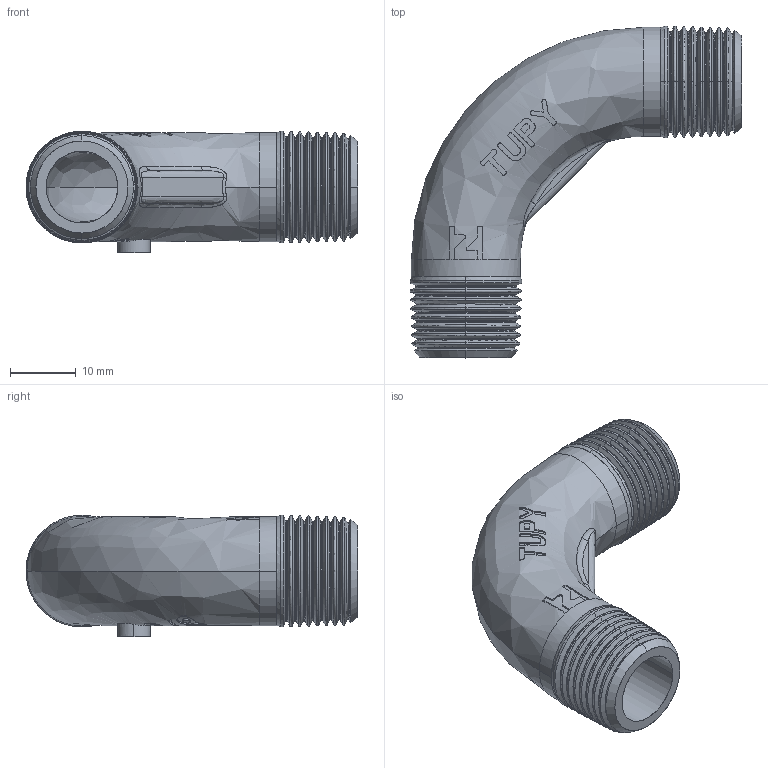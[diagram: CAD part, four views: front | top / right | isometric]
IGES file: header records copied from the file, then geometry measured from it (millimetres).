
Start section: SolidWorks IGES file using analytic representation for surfaces
Global section: file name: C:\Users\Joel Rosa\Desktop\Tubulação\12-25-OK\12-25-003.IGS; native system: SolidWorks 2011; preprocessor: SolidWorks 2011; author: Joel Rosa; date: 121207.021307; units: millimetre
Bounding box: 50.51 x 50.51 x 18.51 mm (x, y, z)
Surface area: 7188.8 mm2 (no closed solid volume)
Topology: 0 solids, 0 shells, 326 faces, 3347 edges, 3347 vertices
Faces by surface type: bspline 239, revolution 87
